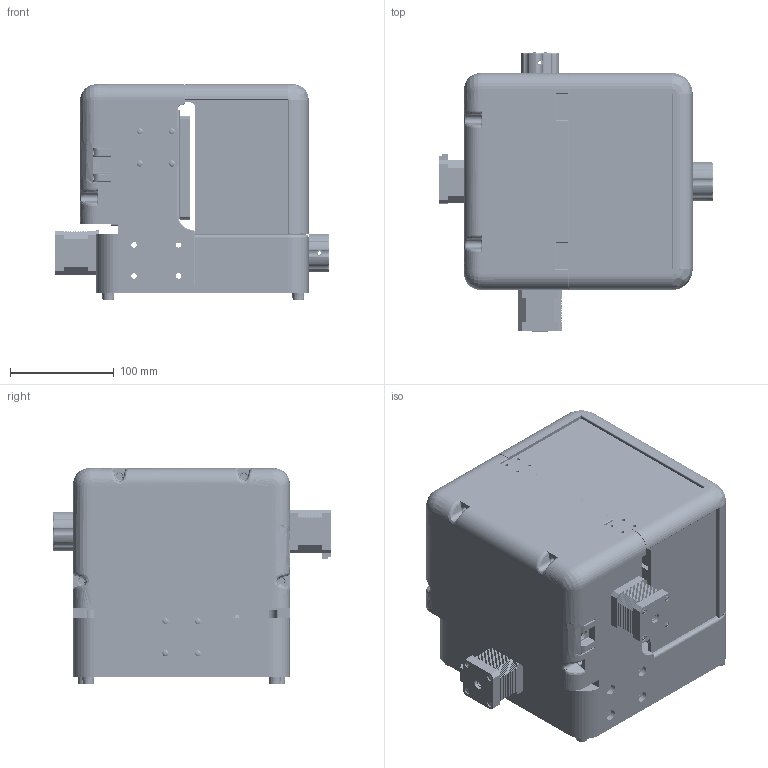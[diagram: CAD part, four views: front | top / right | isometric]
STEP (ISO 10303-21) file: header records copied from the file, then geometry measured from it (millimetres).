
FILE_DESCRIPTION(/* description */ (''),/* implementation_level */ '2;1');
FILE_NAME(/* name */ 'Pico V2.1 v23.step',/* time_stamp */ '2022-11-15T13:54:40+05:30',/* author */ (''),/* organization */ (''),/* preprocessor_version */ 'ST-DEVELOPER v19.2',/* originating_system */ 'Autodesk Translation Framework v11.17.0.187',/* authorisation */ '');
FILE_SCHEMA (('AUTOMOTIVE_DESIGN { 1 0 10303 214 3 1 1 }'));
Products named in the file (24): Pico V2.1; X-axis; Nema 17HS4401-S; X rods; Threaded rod; Y axis; Yrods; 8mm bearing; Flexure Z-axis optimized; Frame; Nema 17HS4401-S_1; Nema 17HS4401-S_2; Nema 17HS4401-S_3; Base plate Acrylic; feet; Cover; Back cover; ETC Spindle; Bit catrige; Sunny Sky X series; Prop Screw; X2216-11; X axis knob; Y axis knob
Assembly tree (34 placements, depth 4):
  Pico V2.1
    X-axis
      Nema 17HS4401-S
        Nema 17HS4401-S_3
      X rods
      8mm bearing  x3
      Threaded rod
    Y axis
      Yrods
      8mm bearing  x4
    Flexure Z-axis optimized
    Frame
      Nema 17HS4401-S_1
        Nema 17HS4401-S_3
      Nema 17HS4401-S_2
        Nema 17HS4401-S_3
      Base plate Acrylic
    feet  x4
    Cover
    Back cover
    ETC Spindle
      Bit catrige
      Sunny Sky X series
        Prop Screw
        X2216-11
    X axis knob
    Y axis knob
Bounding box: 265.2 x 269.2 x 208 mm (x, y, z)
Volume: 2281095.8 mm3; surface area: 915056.4 mm2
Topology: 61 solids, 3628 shells, 8139 faces, 31164 edges, 26891 vertices
Faces by surface type: plane 5189, cylinder 1675, bspline 1106, torus 94, cone 69, sphere 6
Full cylindrical faces by diameter (mm): 1.38 x3, 2 x3, 2.32 x4, 2.5 x14, 2.7 x2, 3 x18, 3.092 x1, 3.175 x2, 3.2 x45, 3.25 x22, 3.3 x18, 3.332 x3, 3.448 x1, 3.5 x19, 4 x6, 4.109 x4, 4.134 x14, 4.15 x6, 4.2 x1, 4.25 x2, 5 x21, 5.3 x16, 5.5 x1, 5.7 x4, 6 x6, 6.061 x192, 6.2 x6, 6.25 x6, 6.3 x4, 6.5 x4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
Entity records: 255311 total; most frequent: CARTESIAN_POINT 100927, ORIENTED_EDGE 30305, DIRECTION 25938, EDGE_CURVE 18268, VERTEX_POINT 14158, LINE 12284, VECTOR 12284, AXIS2_PLACEMENT_3D 6827
